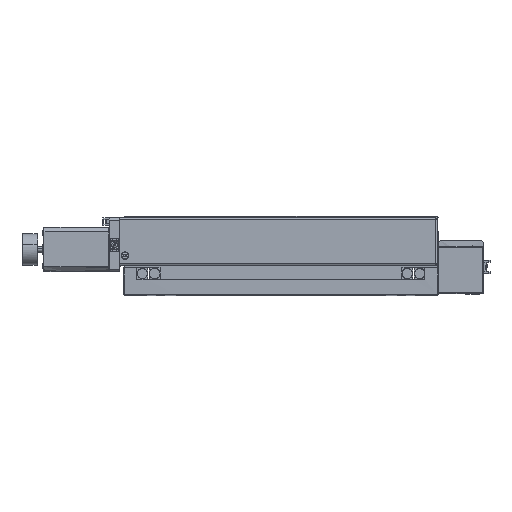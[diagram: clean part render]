
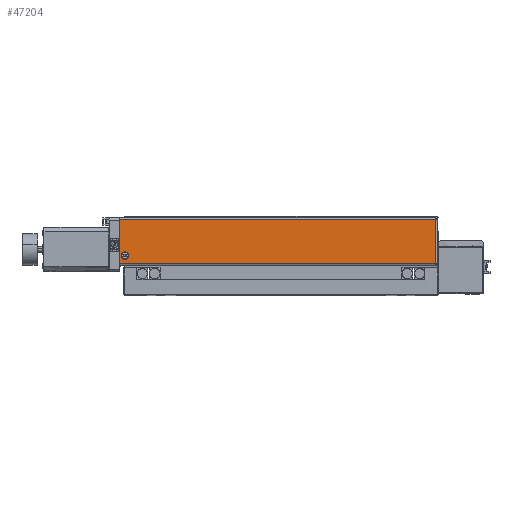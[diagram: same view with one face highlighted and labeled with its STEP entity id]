
A CAD part, top view. The second image highlights one B-rep face of the part: STEP entity #47204.
In plain terms, the highlighted planar face has unit normal (0, 0, 1).
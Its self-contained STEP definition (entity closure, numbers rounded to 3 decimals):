
#249 = VERTEX_POINT ( 'NONE', #35616 ) ;
#838 = CARTESIAN_POINT ( 'NONE',  ( -148.542, 34.1, 193.3 ) ) ;
#1075 = B_SPLINE_CURVE_WITH_KNOTS ( 'NONE', 3,
 ( #55882, #23698, #56165, #18893, #55268, #9279, #50748, #42363, #45972, #838, #1135, #14978, #4746, #51621, #23096, #14392, #37532, #9881 ),
 .UNSPECIFIED., .F., .F.,
 ( 4, 2, 2, 2, 2, 2, 2, 2, 4 ),
 ( 0., 0.125, 0.25, 0.375, 0.5, 0.625, 0.75, 0.875, 1. ),
 .UNSPECIFIED. ) ;
#1135 = CARTESIAN_POINT ( 'NONE',  ( -148.084, 34.191, 193.3 ) ) ;
#1453 = EDGE_CURVE ( 'NONE', #9832, #26210, #23081, .T. ) ;
#1676 = CARTESIAN_POINT ( 'NONE',  ( -154., 72.3, 193.3 ) ) ;
#2679 = EDGE_CURVE ( 'NONE', #53370, #26210, #3444, .T. ) ;
#3440 = CARTESIAN_POINT ( 'NONE',  ( -148.084, 41.009, 193.3 ) ) ;
#3444 = B_SPLINE_CURVE_WITH_KNOTS ( 'NONE', 3,
 ( #21175, #34138, #47978, #25098 ),
 .UNSPECIFIED., .F., .F.,
 ( 4, 4 ),
 ( 0., 1. ),
 .UNSPECIFIED. ) ;
#3739 = EDGE_CURVE ( 'NONE', #249, #31567, #22793, .T. ) ;
#4746 = CARTESIAN_POINT ( 'NONE',  ( -146.849, 34.801, 193.3 ) ) ;
#5680 = CARTESIAN_POINT ( 'NONE',  ( 149., 73.5, 193.3 ) ) ;
#6704 = B_SPLINE_CURVE_WITH_KNOTS ( 'NONE', 3,
 ( #58074, #35224, #12375, #30705 ),
 .UNSPECIFIED., .F., .F.,
 ( 4, 4 ),
 ( 0., 1. ),
 .UNSPECIFIED. ) ;
#8223 = CARTESIAN_POINT ( 'NONE',  ( 147.8, 72.3, 193.3 ) ) ;
#8569 = CARTESIAN_POINT ( 'NONE',  ( -145.942, 39.363, 193.3 ) ) ;
#9279 = CARTESIAN_POINT ( 'NONE',  ( -151.151, 34.801, 193.3 ) ) ;
#9565 = ORIENTED_EDGE ( 'NONE', *, *, #28206, .F. ) ;
#9832 = VERTEX_POINT ( 'NONE', #1676 ) ;
#9881 = CARTESIAN_POINT ( 'NONE',  ( -145.5, 37.6, 193.3 ) ) ;
#10207 = FACE_BOUND ( 'NONE', #33100, .T. ) ;
#12375 = CARTESIAN_POINT ( 'NONE',  ( 47.2, 72.3, 193.3 ) ) ;
#12702 = ORIENTED_EDGE ( 'NONE', *, *, #1453, .T. ) ;
#13079 = CARTESIAN_POINT ( 'NONE',  ( -152.5, 37.6, 193.3 ) ) ;
#14127 = DIRECTION ( 'NONE',  ( -1., 0., 0. ) ) ;
#14392 = CARTESIAN_POINT ( 'NONE',  ( -145.591, 36.684, 193.3 ) ) ;
#14978 = CARTESIAN_POINT ( 'NONE',  ( -147.237, 34.542, 193.3 ) ) ;
#15374 = ORIENTED_EDGE ( 'NONE', *, *, #30848, .F. ) ;
#18183 = CARTESIAN_POINT ( 'NONE',  ( -149.458, 41.1, 193.3 ) ) ;
#18893 = CARTESIAN_POINT ( 'NONE',  ( -152.058, 35.837, 193.3 ) ) ;
#18978 = CARTESIAN_POINT ( 'NONE',  ( -154., 29.7, 193.3 ) ) ;
#20830 = CARTESIAN_POINT ( 'NONE',  ( 147.8, 43.9, 193.3 ) ) ;
#21175 = CARTESIAN_POINT ( 'NONE',  ( 147.8, 29.7, 193.3 ) ) ;
#21775 = CARTESIAN_POINT ( 'NONE',  ( -150.763, 40.658, 193.3 ) ) ;
#22075 = CARTESIAN_POINT ( 'NONE',  ( -145.5, 38.058, 193.3 ) ) ;
#22793 = B_SPLINE_CURVE_WITH_KNOTS ( 'NONE', 3,
 ( #53658, #22075, #53952, #8569, #40461, #58486, #31720, #3440, #50054, #18183, #40750, #21775, #58785, #27189, #40160, #54550, #31412, #13079 ),
 .UNSPECIFIED., .F., .F.,
 ( 4, 2, 2, 2, 2, 2, 2, 2, 4 ),
 ( 0., 0.125, 0.25, 0.375, 0.5, 0.625, 0.75, 0.875, 1. ),
 .UNSPECIFIED. ) ;
#23081 = B_SPLINE_CURVE_WITH_KNOTS ( 'NONE', 3,
 ( #42448, #46650, #37611, #18978 ),
 .UNSPECIFIED., .F., .F.,
 ( 4, 4 ),
 ( 0., 1. ),
 .UNSPECIFIED. ) ;
#23096 = CARTESIAN_POINT ( 'NONE',  ( -145.942, 35.837, 193.3 ) ) ;
#23137 = PLANE ( 'NONE',  #43697 ) ;
#23698 = CARTESIAN_POINT ( 'NONE',  ( -152.5, 37.142, 193.3 ) ) ;
#24724 = CARTESIAN_POINT ( 'NONE',  ( -152.5, 37.6, 193.3 ) ) ;
#25058 = B_SPLINE_CURVE_WITH_KNOTS ( 'NONE', 3,
 ( #8223, #26534, #20830, #34697 ),
 .UNSPECIFIED., .F., .F.,
 ( 4, 4 ),
 ( 0., 1. ),
 .UNSPECIFIED. ) ;
#25098 = CARTESIAN_POINT ( 'NONE',  ( -154., 29.7, 193.3 ) ) ;
#26210 = VERTEX_POINT ( 'NONE', #42252 ) ;
#26534 = CARTESIAN_POINT ( 'NONE',  ( 147.8, 58.1, 193.3 ) ) ;
#27189 = CARTESIAN_POINT ( 'NONE',  ( -151.799, 39.751, 193.3 ) ) ;
#28206 = EDGE_CURVE ( 'NONE', #58652, #53370, #25058, .T. ) ;
#28501 = CARTESIAN_POINT ( 'NONE',  ( 147.8, 72.3, 193.3 ) ) ;
#30705 = CARTESIAN_POINT ( 'NONE',  ( 147.8, 72.3, 193.3 ) ) ;
#30848 = EDGE_CURVE ( 'NONE', #9832, #58652, #6704, .T. ) ;
#31412 = CARTESIAN_POINT ( 'NONE',  ( -152.5, 38.058, 193.3 ) ) ;
#31567 = VERTEX_POINT ( 'NONE', #24724 ) ;
#31720 = CARTESIAN_POINT ( 'NONE',  ( -147.237, 40.658, 193.3 ) ) ;
#32762 = FACE_OUTER_BOUND ( 'NONE', #54772, .T. ) ;
#32834 = ORIENTED_EDGE ( 'NONE', *, *, #2679, .F. ) ;
#33100 = EDGE_LOOP ( 'NONE', ( #36939, #36885 ) ) ;
#34138 = CARTESIAN_POINT ( 'NONE',  ( 47.2, 29.7, 193.3 ) ) ;
#34697 = CARTESIAN_POINT ( 'NONE',  ( 147.8, 29.7, 193.3 ) ) ;
#35224 = CARTESIAN_POINT ( 'NONE',  ( -53.4, 72.3, 193.3 ) ) ;
#35616 = CARTESIAN_POINT ( 'NONE',  ( -145.5, 37.6, 193.3 ) ) ;
#36885 = ORIENTED_EDGE ( 'NONE', *, *, #57787, .F. ) ;
#36939 = ORIENTED_EDGE ( 'NONE', *, *, #3739, .F. ) ;
#37532 = CARTESIAN_POINT ( 'NONE',  ( -145.5, 37.142, 193.3 ) ) ;
#37611 = CARTESIAN_POINT ( 'NONE',  ( -154., 43.9, 193.3 ) ) ;
#40160 = CARTESIAN_POINT ( 'NONE',  ( -152.058, 39.363, 193.3 ) ) ;
#40461 = CARTESIAN_POINT ( 'NONE',  ( -146.201, 39.751, 193.3 ) ) ;
#40750 = CARTESIAN_POINT ( 'NONE',  ( -149.916, 41.009, 193.3 ) ) ;
#41802 = DIRECTION ( 'NONE',  ( 0., 0., -1. ) ) ;
#42252 = CARTESIAN_POINT ( 'NONE',  ( -154., 29.7, 193.3 ) ) ;
#42363 = CARTESIAN_POINT ( 'NONE',  ( -149.916, 34.191, 193.3 ) ) ;
#42448 = CARTESIAN_POINT ( 'NONE',  ( -154., 72.3, 193.3 ) ) ;
#43697 = AXIS2_PLACEMENT_3D ( 'NONE', #5680, #41802, #14127 ) ;
#44305 = CARTESIAN_POINT ( 'NONE',  ( 147.8, 29.7, 193.3 ) ) ;
#45972 = CARTESIAN_POINT ( 'NONE',  ( -149.458, 34.1, 193.3 ) ) ;
#46650 = CARTESIAN_POINT ( 'NONE',  ( -154., 58.1, 193.3 ) ) ;
#47204 = ADVANCED_FACE ( 'NONE', ( #32762, #10207 ), #23137, .F. ) ;
#47978 = CARTESIAN_POINT ( 'NONE',  ( -53.4, 29.7, 193.3 ) ) ;
#50054 = CARTESIAN_POINT ( 'NONE',  ( -148.542, 41.1, 193.3 ) ) ;
#50748 = CARTESIAN_POINT ( 'NONE',  ( -150.763, 34.542, 193.3 ) ) ;
#51621 = CARTESIAN_POINT ( 'NONE',  ( -146.201, 35.449, 193.3 ) ) ;
#53370 = VERTEX_POINT ( 'NONE', #44305 ) ;
#53658 = CARTESIAN_POINT ( 'NONE',  ( -145.5, 37.6, 193.3 ) ) ;
#53952 = CARTESIAN_POINT ( 'NONE',  ( -145.591, 38.516, 193.3 ) ) ;
#54550 = CARTESIAN_POINT ( 'NONE',  ( -152.409, 38.516, 193.3 ) ) ;
#54772 = EDGE_LOOP ( 'NONE', ( #32834, #9565, #15374, #12702 ) ) ;
#55268 = CARTESIAN_POINT ( 'NONE',  ( -151.799, 35.449, 193.3 ) ) ;
#55882 = CARTESIAN_POINT ( 'NONE',  ( -152.5, 37.6, 193.3 ) ) ;
#56165 = CARTESIAN_POINT ( 'NONE',  ( -152.409, 36.684, 193.3 ) ) ;
#57787 = EDGE_CURVE ( 'NONE', #31567, #249, #1075, .T. ) ;
#58074 = CARTESIAN_POINT ( 'NONE',  ( -154., 72.3, 193.3 ) ) ;
#58486 = CARTESIAN_POINT ( 'NONE',  ( -146.849, 40.399, 193.3 ) ) ;
#58652 = VERTEX_POINT ( 'NONE', #28501 ) ;
#58785 = CARTESIAN_POINT ( 'NONE',  ( -151.151, 40.399, 193.3 ) ) ;
